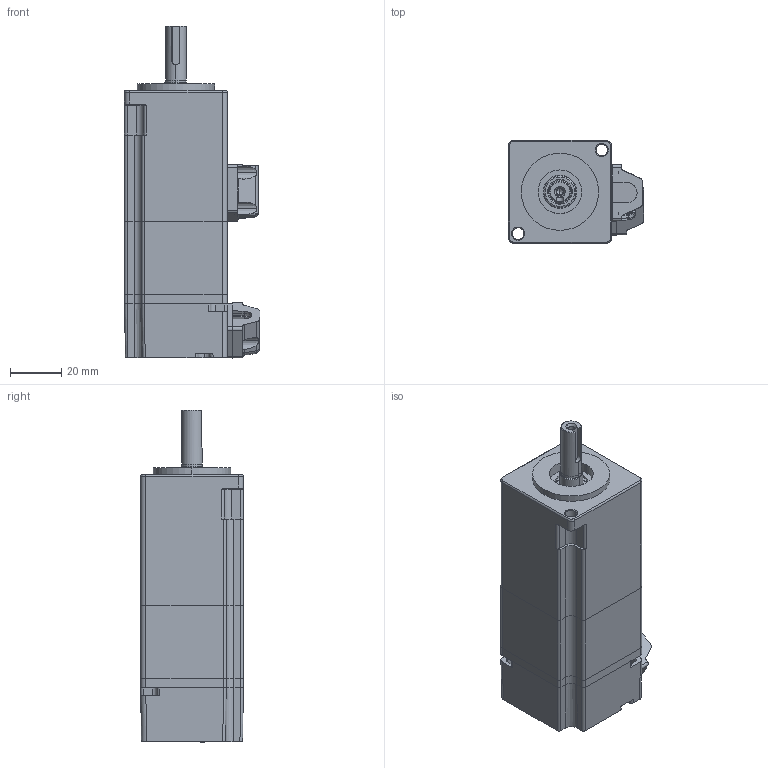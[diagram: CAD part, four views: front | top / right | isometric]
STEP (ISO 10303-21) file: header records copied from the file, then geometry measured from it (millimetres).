
FILE_DESCRIPTION (( 'STEP AP214' ), '1' );
FILE_NAME ('ZE40-100W-囀离秶雄.STEP', '2024-03-01T00:47:15', ( 'MicroSoft' ), ( 'MicroSoft' ), 'SwSTEP 2.0', 'SolidWorks 2020', '' );
FILE_SCHEMA (( 'AUTOMOTIVE_DESIGN' ));
Length unit declared in the file: millimetre
Products named in the file (23): 40-T-PCB; Z40-01-01A(40粣秶雄遴)1_100W; 煦极DR-M35H(3)^煦极DR-M35H(3); GB╱T 276-2013[两面带防尘盖的深沟球轴承[60000-2Z]607-2Z]_607-2Z; PCB__2^煦极DR-M35H(3)_煦极DR-M35H(3); ______________^煦极DR-M35H(3)_煦极DR-M35H(3); M2____^煦极DR-M35H(3)_煦极DR-M35H(3); Z092-S040B(24V)0.38G8.5; 煦极DR-M35H(3); GB╱T 276-2013[两面带防尘盖的深沟球轴承[60000-2Z]619╱9-2Z]_619╱9-2Z; 22-12.28-40后盖造型(1).stp（后端盖内置）; hou-bz; 40yagai（惠宜）编码器压盖; 22-12.28-40机壳造型(1).stp（聚成制动）-bz1; ____^煦极DR-M35H(3)_煦极DR-M35H(3); 40-T-隅赽傖こ-bz; M2____2^煦极DR-M35H(3)_煦极DR-M35H(3); ZE40-100W-囀离秶雄; 22-12.28-40机壳造型.（聚成）-bz1; ____1.62^煦极DR-M35H(3)_煦极DR-M35H(3); 40houzhao（惠宜）编码器罩壳bz; ______2^煦极DR-M35H(3)_煦极DR-M35H(3); __2^煦极DR-M35H(3)_煦极DR-M35H(3)
Assembly tree (29 placements, depth 4):
  ZE40-100W-囀离秶雄
    22-12.28-40机壳造型.（聚成）-bz1
    22-12.28-40后盖造型(1).stp（后端盖内置）
    40-T-隅赽傖こ-bz
      40-T-PCB
    GB╱T 276-2013[两面带防尘盖的深沟球轴承[60000-2Z]619╱9-2Z]_619╱9-2Z
    Z092-S040B(24V)0.38G8.5
    22-12.28-40机壳造型(1).stp（聚成制动）-bz1
    Z40-01-01A(40粣秶雄遴)1_100W
    40houzhao（惠宜）编码器罩壳bz
    GB╱T 276-2013[两面带防尘盖的深沟球轴承[60000-2Z]607-2Z]_607-2Z
    40yagai（惠宜）编码器压盖
    hou-bz
    煦极DR-M35H(3)
      煦极DR-M35H(3)^煦极DR-M35H(3)
        __2^煦极DR-M35H(3)_煦极DR-M35H(3)
        PCB__2^煦极DR-M35H(3)_煦极DR-M35H(3)
        ____1.62^煦极DR-M35H(3)_煦极DR-M35H(3)  x5
        M2____2^煦极DR-M35H(3)_煦极DR-M35H(3)  x3
        ______________^煦极DR-M35H(3)_煦极DR-M35H(3)
        ______2^煦极DR-M35H(3)_煦极DR-M35H(3)
        ____^煦极DR-M35H(3)_煦极DR-M35H(3)
        M2____^煦极DR-M35H(3)_煦极DR-M35H(3)  x2
Bounding box: 52.5 x 40 x 129.1 mm (x, y, z)
Volume: 100165 mm3; surface area: 72204 mm2
Topology: 52 solids, 53 shells, 1578 faces, 4101 edges, 2654 vertices
Faces by surface type: cylinder 718, plane 516, cone 141, sphere 110, torus 71, bspline 22
Entity records: 53008 total; most frequent: CARTESIAN_POINT 12887, DIRECTION 7799, ORIENTED_EDGE 7182, EDGE_CURVE 3591, AXIS2_PLACEMENT_3D 3190, VERTEX_POINT 2348, CIRCLE 1725, EDGE_LOOP 1691
